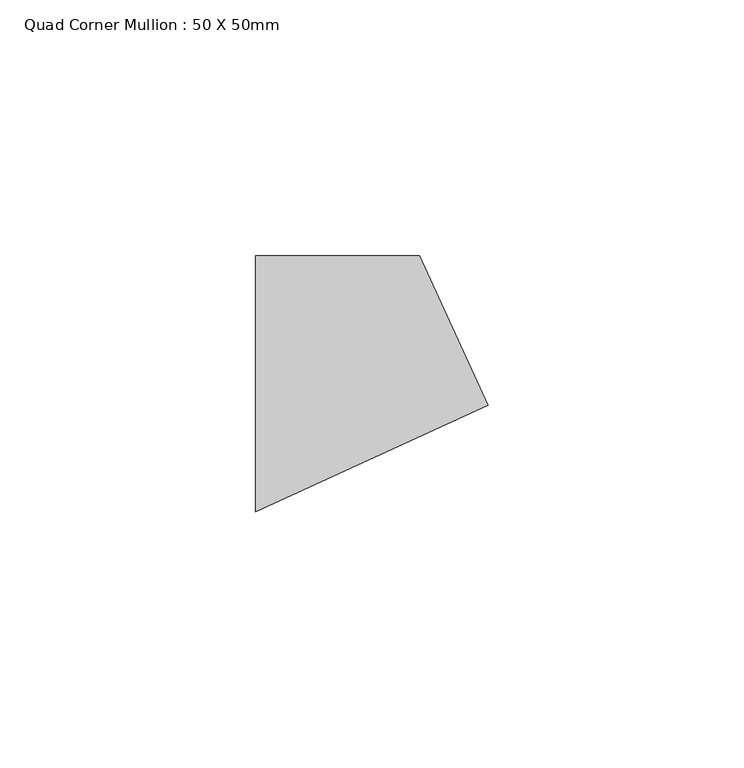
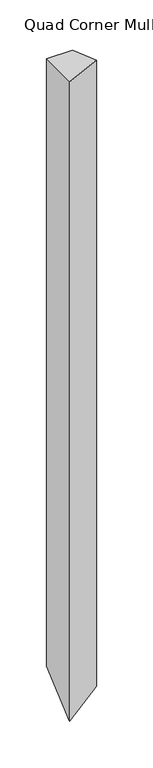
"""IFC4 building model written with IfcOpenShell, lengths in millimetres: member geometry, Quad Corner Mullion : 50 X 50mm."""

from ifc_helpers import new_model, si_unit, origin, place, context, project, spatial, faceted_brep, source, transform, mapped, element, save


def quad_corner_mullion_50_x_50mm_d11b0ca7(model_context):
    return source(origin(), model_context, "Body", "Brep", [
        faceted_brep([(29.4125559, -4.1926582, 0.0), (16.0523154, 25.0, 0.0), (-16.0523154, 25.0, 0.0), (-16.0523154, -25.0, 0.0), (29.4125559, -4.1926582, -819.3976138), (16.0523154, 25.0, -794.9020651), (-16.0523154, 25.0, -794.9020651), (-16.0523154, -25.0, -836.8570466)], [[[0, 1, 2, 3]], [[1, 0, 4, 5]], [[2, 1, 5, 6]], [[3, 2, 6, 7]], [[0, 3, 7, 4]], [[4, 7, 6, 5]]]),
    ])


if __name__ == "__main__":
    model = new_model("IFC4")
    model_context = context("Model", 3, world=origin())
    ifc_project = project(units=[si_unit("LENGTHUNIT", "METRE", prefix="MILLI")], contexts=[model_context])
    site = spatial("IfcSite", under=ifc_project)
    building = spatial("IfcBuilding", under=site)
    placement = place(None, origin())
    quad_corner_mullion_50_x_50mm_shape = quad_corner_mullion_50_x_50mm_d11b0ca7(model_context)
    element("IfcMember", 1, ObjectType="Quad Corner Mullion : 50 X 50mm", at=placement, inside=building, context=model_context, shape_type="MappedRepresentation", body=[
        mapped(quad_corner_mullion_50_x_50mm_shape, transform((0.0, 0.0, 0.0), x_axis=(1.0, 0.0, 0.0), y_axis=(0.0, 1.0, 0.0), z_axis=(0.0, 0.0, 1.0))),
    ])
    save(model, "model.ifc")
